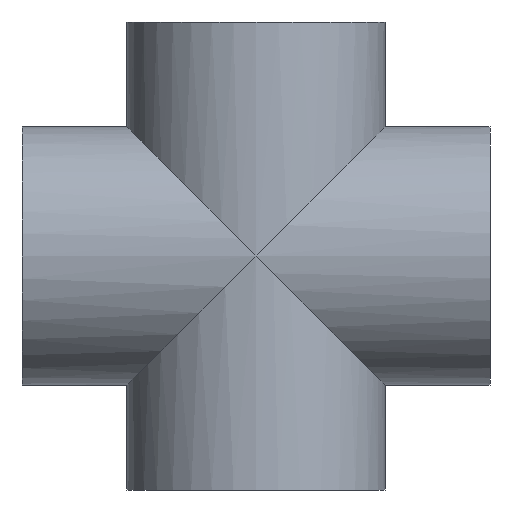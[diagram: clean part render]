
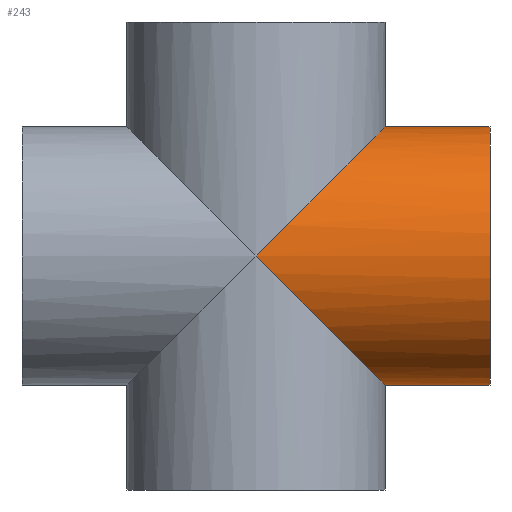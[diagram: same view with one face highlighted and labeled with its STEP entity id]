
A CAD part, left-side view. The second image highlights one B-rep face of the part: STEP entity #243.
In plain terms, the highlighted cylindrical face has radius 64.75 mm (diameter 129.5 mm), a full revolution.
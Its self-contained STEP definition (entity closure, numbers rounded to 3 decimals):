
#19=ELLIPSE('',#282,91.57,64.75);
#20=ELLIPSE('',#283,91.57,64.75);
#43=FACE_BOUND('',#96,.T.);
#63=FACE_OUTER_BOUND('',#95,.T.);
#95=EDGE_LOOP('',(#199,#200));
#96=EDGE_LOOP('',(#201));
#123=CIRCLE('',#284,64.75);
#141=VERTEX_POINT('',#431);
#142=VERTEX_POINT('',#432);
#143=VERTEX_POINT('',#435);
#163=EDGE_CURVE('',#141,#142,#19,.T.);
#164=EDGE_CURVE('',#142,#141,#20,.T.);
#165=EDGE_CURVE('',#143,#143,#123,.T.);
#199=ORIENTED_EDGE('',*,*,#163,.F.);
#200=ORIENTED_EDGE('',*,*,#164,.F.);
#201=ORIENTED_EDGE('',*,*,#165,.F.);
#227=CYLINDRICAL_SURFACE('',#281,64.75);
#243=ADVANCED_FACE('',(#63,#43),#227,.T.);
#281=AXIS2_PLACEMENT_3D('',#430,#355,#356);
#282=AXIS2_PLACEMENT_3D('',#433,#357,#358);
#283=AXIS2_PLACEMENT_3D('',#434,#359,#360);
#284=AXIS2_PLACEMENT_3D('',#436,#361,#362);
#355=DIRECTION('center_axis',(0.,1.,0.));
#356=DIRECTION('ref_axis',(1.,0.,0.));
#357=DIRECTION('center_axis',(0.,0.707,-0.707));
#358=DIRECTION('ref_axis',(0.,-0.707,-0.707));
#359=DIRECTION('center_axis',(0.,0.707,0.707));
#360=DIRECTION('ref_axis',(0.,0.707,-0.707));
#361=DIRECTION('center_axis',(0.,-1.,0.));
#362=DIRECTION('ref_axis',(1.,0.,0.));
#430=CARTESIAN_POINT('Origin',(0.,0.,0.));
#431=CARTESIAN_POINT('',(64.75,0.,0.));
#432=CARTESIAN_POINT('',(-64.75,0.,0.));
#433=CARTESIAN_POINT('Origin',(0.,0.,0.));
#434=CARTESIAN_POINT('Origin',(0.,0.,0.));
#435=CARTESIAN_POINT('',(-64.75,-117.,0.));
#436=CARTESIAN_POINT('Origin',(0.,-117.,0.));
